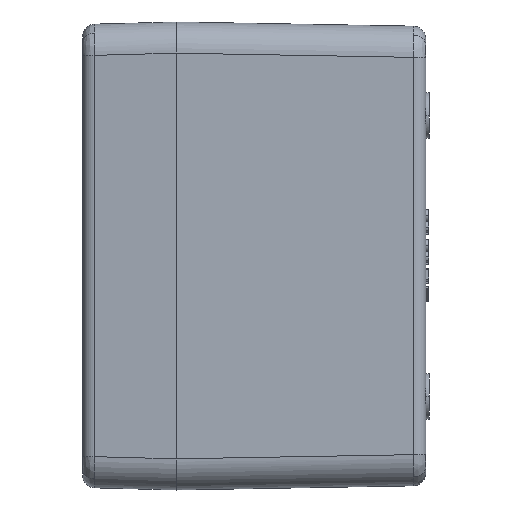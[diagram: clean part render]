
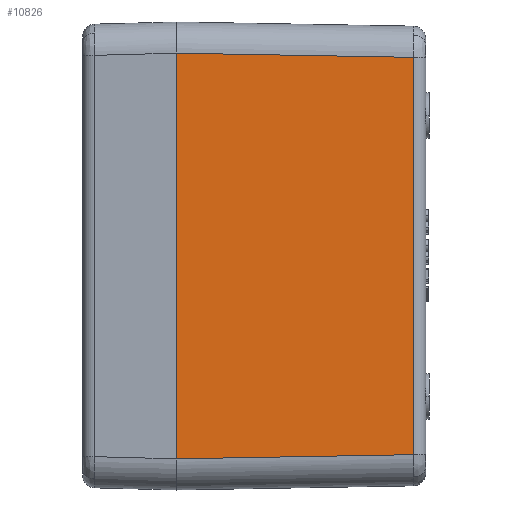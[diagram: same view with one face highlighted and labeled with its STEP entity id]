
A CAD part, left-side view. The second image highlights one B-rep face of the part: STEP entity #10826.
In plain terms, the highlighted planar face has unit normal (-1, -0.018, 0) as drawn and (0, 0.017, -1) by its records, which use the part's own axes.
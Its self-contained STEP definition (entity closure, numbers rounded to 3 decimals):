
#187 = DIRECTION ( 'NONE',  ( 0., 0.017, -1. ) ) ;
#405 = VERTEX_POINT ( 'NONE', #3326 ) ;
#1076 = LINE ( 'NONE', #16491, #18563 ) ;
#1728 = ORIENTED_EDGE ( 'NONE', *, *, #15087, .T. ) ;
#1849 = ORIENTED_EDGE ( 'NONE', *, *, #4756, .T. ) ;
#2381 = CARTESIAN_POINT ( 'NONE',  ( 32.479, 1.221, -39.979 ) ) ;
#2879 = CARTESIAN_POINT ( 'NONE',  ( -31.837, 38.035, -39.336 ) ) ;
#3193 = DIRECTION ( 'NONE',  ( 1., 0., 0. ) ) ;
#3326 = CARTESIAN_POINT ( 'NONE',  ( -32.501, 0., -40. ) ) ;
#4239 = CARTESIAN_POINT ( 'NONE',  ( 31.837, 38.035, -39.336 ) ) ;
#4665 = ORIENTED_EDGE ( 'NONE', *, *, #9094, .T. ) ;
#4734 = VECTOR ( 'NONE', #13317, 1000. ) ;
#4756 = EDGE_CURVE ( 'NONE', #405, #8022, #1076, .T. ) ;
#4814 = EDGE_CURVE ( 'NONE', #15187, #405, #19775, .T. ) ;
#7401 = LINE ( 'NONE', #15460, #9117 ) ;
#7551 = CARTESIAN_POINT ( 'NONE',  ( 32.501, 0., -40. ) ) ;
#7796 = DIRECTION ( 'NONE',  ( -1., 0., 0. ) ) ;
#8022 = VERTEX_POINT ( 'NONE', #2879 ) ;
#9094 = EDGE_CURVE ( 'NONE', #8022, #17375, #7401, .T. ) ;
#9117 = VECTOR ( 'NONE', #3193, 1000. ) ;
#9199 = EDGE_LOOP ( 'NONE', ( #1849, #4665, #1728, #11113 ) ) ;
#9756 = CARTESIAN_POINT ( 'NONE',  ( -37.5, 0., -40. ) ) ;
#10826 = ADVANCED_FACE ( 'NONE', ( #16862 ), #18802, .T. ) ;
#10848 = CARTESIAN_POINT ( 'NONE',  ( -37.5, 0., -40. ) ) ;
#11113 = ORIENTED_EDGE ( 'NONE', *, *, #4814, .T. ) ;
#11282 = DIRECTION ( 'NONE',  ( 0., 1., 0.017 ) ) ;
#11994 = DIRECTION ( 'NONE',  ( 0.017, 1., 0.017 ) ) ;
#13317 = DIRECTION ( 'NONE',  ( 0.017, -1., -0.017 ) ) ;
#13726 = AXIS2_PLACEMENT_3D ( 'NONE', #9756, #187, #11282 ) ;
#15087 = EDGE_CURVE ( 'NONE', #17375, #15187, #19076, .T. ) ;
#15187 = VERTEX_POINT ( 'NONE', #7551 ) ;
#15460 = CARTESIAN_POINT ( 'NONE',  ( -37.5, 38.035, -39.336 ) ) ;
#15746 = VECTOR ( 'NONE', #7796, 1000. ) ;
#16491 = CARTESIAN_POINT ( 'NONE',  ( -32.502, -0.087, -40.002 ) ) ;
#16862 = FACE_OUTER_BOUND ( 'NONE', #9199, .T. ) ;
#17375 = VERTEX_POINT ( 'NONE', #4239 ) ;
#18563 = VECTOR ( 'NONE', #11994, 1000. ) ;
#18802 = PLANE ( 'NONE',  #13726 ) ;
#19076 = LINE ( 'NONE', #2381, #4734 ) ;
#19775 = LINE ( 'NONE', #10848, #15746 ) ;
